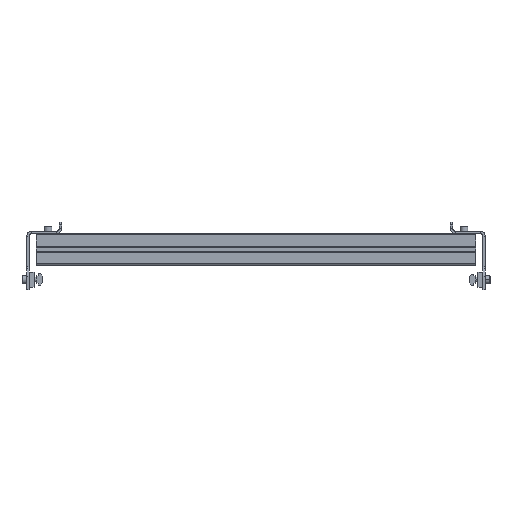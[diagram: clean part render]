
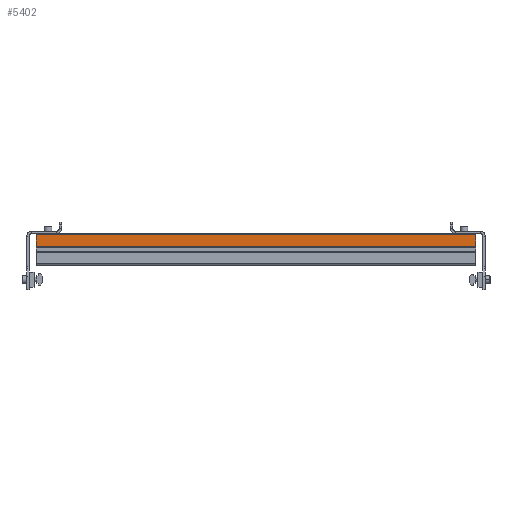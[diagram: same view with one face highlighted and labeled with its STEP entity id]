
A CAD part, top view. The second image highlights one B-rep face of the part: STEP entity #5402.
In plain terms, the highlighted planar face has unit normal (0, 0, 1) as drawn and (0, 1, 0) by its records, which use the part's own axes.
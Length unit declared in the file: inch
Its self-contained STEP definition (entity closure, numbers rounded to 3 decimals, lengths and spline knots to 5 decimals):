
#613 = EDGE_CURVE ( 'NONE', #6655, #1651, #6945, .T. ) ;
#932 = DIRECTION ( 'NONE',  ( 0., 0., -1. ) ) ;
#1110 = DIRECTION ( 'NONE',  ( 0., 0., 1. ) ) ;
#1328 = VECTOR ( 'NONE', #2431, 39.37008 ) ;
#1498 = EDGE_CURVE ( 'NONE', #2208, #4434, #8168, .T. ) ;
#1651 = VERTEX_POINT ( 'NONE', #6390 ) ;
#2208 = VERTEX_POINT ( 'NONE', #4642 ) ;
#2281 = LINE ( 'NONE', #6833, #3760 ) ;
#2290 = ORIENTED_EDGE ( 'NONE', *, *, #1498, .F. ) ;
#2359 = ORIENTED_EDGE ( 'NONE', *, *, #613, .F. ) ;
#2377 = DIRECTION ( 'NONE',  ( 0., 0., 1. ) ) ;
#2380 = ORIENTED_EDGE ( 'NONE', *, *, #6324, .F. ) ;
#2431 = DIRECTION ( 'NONE',  ( 1., 0., 0. ) ) ;
#2974 = AXIS2_PLACEMENT_3D ( 'NONE', #7251, #7841, #932 ) ;
#3162 = CARTESIAN_POINT ( 'NONE',  ( 0.7875, 0.441, 10.98 ) ) ;
#3760 = VECTOR ( 'NONE', #1110, 39.37008 ) ;
#3898 = VECTOR ( 'NONE', #2377, 39.37008 ) ;
#4434 = VERTEX_POINT ( 'NONE', #6479 ) ;
#4642 = CARTESIAN_POINT ( 'NONE',  ( -0.725, 0.441, -10.98 ) ) ;
#5189 = PLANE ( 'NONE',  #2974 ) ;
#5402 = ADVANCED_FACE ( 'NONE', ( #7882 ), #5189, .F. ) ;
#5476 = EDGE_CURVE ( 'NONE', #2208, #1651, #2281, .T. ) ;
#5584 = LINE ( 'NONE', #8028, #3898 ) ;
#5696 = DIRECTION ( 'NONE',  ( -1., 0., 0. ) ) ;
#6324 = EDGE_CURVE ( 'NONE', #4434, #6655, #5584, .T. ) ;
#6390 = CARTESIAN_POINT ( 'NONE',  ( -0.725, 0.441, 10.98 ) ) ;
#6479 = CARTESIAN_POINT ( 'NONE',  ( -0.14758, 0.441, -10.98 ) ) ;
#6655 = VERTEX_POINT ( 'NONE', #8062 ) ;
#6833 = CARTESIAN_POINT ( 'NONE',  ( -0.725, 0.441, 75. ) ) ;
#6930 = CARTESIAN_POINT ( 'NONE',  ( 0.7875, 0.441, -10.98 ) ) ;
#6945 = LINE ( 'NONE', #3162, #7762 ) ;
#7075 = EDGE_LOOP ( 'NONE', ( #2380, #2290, #7358, #2359 ) ) ;
#7251 = CARTESIAN_POINT ( 'NONE',  ( -0.7875, 0.441, 75. ) ) ;
#7358 = ORIENTED_EDGE ( 'NONE', *, *, #5476, .T. ) ;
#7762 = VECTOR ( 'NONE', #5696, 39.37008 ) ;
#7841 = DIRECTION ( 'NONE',  ( 0., -1., 0. ) ) ;
#7882 = FACE_OUTER_BOUND ( 'NONE', #7075, .T. ) ;
#8028 = CARTESIAN_POINT ( 'NONE',  ( -0.14758, 0.441, -75. ) ) ;
#8062 = CARTESIAN_POINT ( 'NONE',  ( -0.14758, 0.441, 10.98 ) ) ;
#8168 = LINE ( 'NONE', #6930, #1328 ) ;
